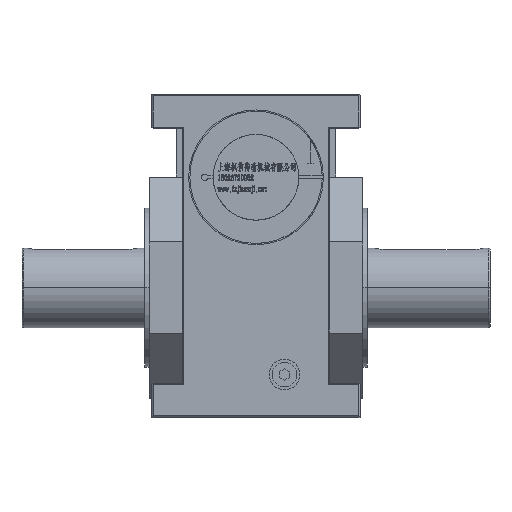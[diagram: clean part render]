
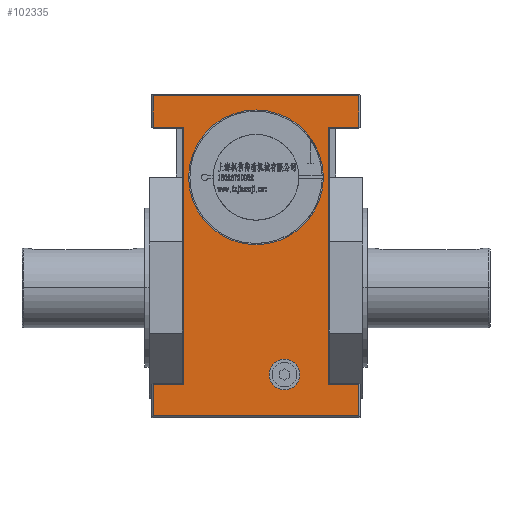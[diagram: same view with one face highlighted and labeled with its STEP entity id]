
A CAD part, top view. The second image highlights one B-rep face of the part: STEP entity #102335.
In plain terms, the highlighted planar face has unit normal (0, 0, 1).
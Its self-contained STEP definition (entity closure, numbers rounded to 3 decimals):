
#355 = CARTESIAN_POINT ( 'NONE',  ( 84., -104.5, 114. ) ) ;
#2718 = DIRECTION ( 'NONE',  ( 0., 1., 0. ) ) ;
#2901 = VECTOR ( 'NONE', #2718, 1000. ) ;
#4169 = VECTOR ( 'NONE', #63478, 1000. ) ;
#5095 = VERTEX_POINT ( 'NONE', #7476 ) ;
#5371 = DIRECTION ( 'NONE',  ( 0., -1., 0. ) ) ;
#6625 = EDGE_CURVE ( 'NONE', #98757, #60768, #103540, .T. ) ;
#7064 = VERTEX_POINT ( 'NONE', #83759 ) ;
#7476 = CARTESIAN_POINT ( 'NONE',  ( 59., -79., 114. ) ) ;
#7610 = CARTESIAN_POINT ( 'NONE',  ( 59., 131., 114. ) ) ;
#8239 = PLANE ( 'NONE',  #66728 ) ;
#8554 = CARTESIAN_POINT ( 'NONE',  ( 23.262, -71., 114. ) ) ;
#8654 = CARTESIAN_POINT ( 'NONE',  ( -84., -104.5, 114. ) ) ;
#8848 = VECTOR ( 'NONE', #36142, 1000. ) ;
#9473 = EDGE_CURVE ( 'NONE', #100819, #7064, #91770, .T. ) ;
#10500 = LINE ( 'NONE', #76514, #29490 ) ;
#10536 = CARTESIAN_POINT ( 'NONE',  ( 84., -79., 114. ) ) ;
#11999 = EDGE_CURVE ( 'NONE', #31250, #13885, #90948, .T. ) ;
#12397 = VERTEX_POINT ( 'NONE', #355 ) ;
#12643 = EDGE_CURVE ( 'NONE', #5095, #72929, #27075, .T. ) ;
#13885 = VERTEX_POINT ( 'NONE', #101556 ) ;
#15941 = ORIENTED_EDGE ( 'NONE', *, *, #57226, .F. ) ;
#16637 = VERTEX_POINT ( 'NONE', #8654 ) ;
#17352 = CARTESIAN_POINT ( 'NONE',  ( 84., -78., 114. ) ) ;
#18154 = VECTOR ( 'NONE', #5371, 1000. ) ;
#18891 = ORIENTED_EDGE ( 'NONE', *, *, #90923, .T. ) ;
#19803 = LINE ( 'NONE', #59881, #4169 ) ;
#20495 = LINE ( 'NONE', #86485, #54506 ) ;
#20740 = DIRECTION ( 'NONE',  ( 1., 0., 0. ) ) ;
#23628 = EDGE_CURVE ( 'NONE', #45109, #5095, #78839, .T. ) ;
#24780 = CARTESIAN_POINT ( 'NONE',  ( -84., 131., 114. ) ) ;
#27075 = LINE ( 'NONE', #83875, #2901 ) ;
#28557 = DIRECTION ( 'NONE',  ( 0., 1., 0. ) ) ;
#29462 = DIRECTION ( 'NONE',  ( 1., 0., 0. ) ) ;
#29490 = VECTOR ( 'NONE', #58712, 1000. ) ;
#30313 = CIRCLE ( 'NONE', #63149, 12.5 ) ;
#31250 = VERTEX_POINT ( 'NONE', #86034 ) ;
#31543 = DIRECTION ( 'NONE',  ( 0., 0., -1. ) ) ;
#31705 = DIRECTION ( 'NONE',  ( 0., 0., 1. ) ) ;
#31728 = CARTESIAN_POINT ( 'NONE',  ( 0., 90., 114. ) ) ;
#32399 = EDGE_CURVE ( 'NONE', #49230, #16637, #35675, .T. ) ;
#32885 = EDGE_CURVE ( 'NONE', #13885, #31250, #30313, .T. ) ;
#33809 = AXIS2_PLACEMENT_3D ( 'NONE', #77780, #102631, #28557 ) ;
#34874 = ORIENTED_EDGE ( 'NONE', *, *, #103806, .T. ) ;
#35675 = LINE ( 'NONE', #36206, #49249 ) ;
#36142 = DIRECTION ( 'NONE',  ( -1., 0., 0. ) ) ;
#36206 = CARTESIAN_POINT ( 'NONE',  ( -84., 158., 114. ) ) ;
#38180 = ORIENTED_EDGE ( 'NONE', *, *, #23628, .T. ) ;
#38693 = ORIENTED_EDGE ( 'NONE', *, *, #12643, .T. ) ;
#38908 = LINE ( 'NONE', #73511, #18154 ) ;
#39955 = AXIS2_PLACEMENT_3D ( 'NONE', #31728, #97694, #81476 ) ;
#40947 = CARTESIAN_POINT ( 'NONE',  ( 55., 90., 114. ) ) ;
#43659 = EDGE_LOOP ( 'NONE', ( #86348, #48849 ) ) ;
#45109 = VERTEX_POINT ( 'NONE', #10536 ) ;
#46547 = CARTESIAN_POINT ( 'NONE',  ( 85., 156.5, 114. ) ) ;
#46718 = VERTEX_POINT ( 'NONE', #104755 ) ;
#47093 = ORIENTED_EDGE ( 'NONE', *, *, #71396, .T. ) ;
#48849 = ORIENTED_EDGE ( 'NONE', *, *, #11999, .F. ) ;
#49230 = VERTEX_POINT ( 'NONE', #73138 ) ;
#49249 = VECTOR ( 'NONE', #69206, 1000. ) ;
#49830 = EDGE_CURVE ( 'NONE', #82043, #62964, #63578, .T. ) ;
#51780 = VECTOR ( 'NONE', #29462, 1000. ) ;
#54077 = DIRECTION ( 'NONE',  ( 0., 1., 0. ) ) ;
#54506 = VECTOR ( 'NONE', #104287, 1000. ) ;
#57186 = CARTESIAN_POINT ( 'NONE',  ( 84., 156.5, 114. ) ) ;
#57226 = EDGE_CURVE ( 'NONE', #7064, #100819, #70096, .T. ) ;
#57508 = CARTESIAN_POINT ( 'NONE',  ( 85., 158., 114. ) ) ;
#58712 = DIRECTION ( 'NONE',  ( 0., -1., 0. ) ) ;
#59881 = CARTESIAN_POINT ( 'NONE',  ( 85., 131., 114. ) ) ;
#60768 = VERTEX_POINT ( 'NONE', #61392 ) ;
#61392 = CARTESIAN_POINT ( 'NONE',  ( -59., 131., 114. ) ) ;
#61547 = CARTESIAN_POINT ( 'NONE',  ( -84., 156.5, 114. ) ) ;
#62964 = VERTEX_POINT ( 'NONE', #57186 ) ;
#63149 = AXIS2_PLACEMENT_3D ( 'NONE', #66321, #31705, #64710 ) ;
#63478 = DIRECTION ( 'NONE',  ( 1., 0., 0. ) ) ;
#63578 = LINE ( 'NONE', #106240, #100871 ) ;
#64419 = ORIENTED_EDGE ( 'NONE', *, *, #9473, .F. ) ;
#64710 = DIRECTION ( 'NONE',  ( 1., 0., 0. ) ) ;
#66226 = EDGE_LOOP ( 'NONE', ( #97550, #82168, #73698, #47093, #86757, #18891, #34874, #96309, #87854, #75179, #38180, #38693 ) ) ;
#66321 = CARTESIAN_POINT ( 'NONE',  ( 23.262, -71., 114. ) ) ;
#66728 = AXIS2_PLACEMENT_3D ( 'NONE', #57508, #31543, #91010 ) ;
#68777 = LINE ( 'NONE', #46547, #100644 ) ;
#69206 = DIRECTION ( 'NONE',  ( 0., -1., 0. ) ) ;
#70096 = CIRCLE ( 'NONE', #33809, 55. ) ;
#71143 = EDGE_CURVE ( 'NONE', #12397, #45109, #91467, .T. ) ;
#71396 = EDGE_CURVE ( 'NONE', #100576, #98757, #38908, .T. ) ;
#72929 = VERTEX_POINT ( 'NONE', #7610 ) ;
#73138 = CARTESIAN_POINT ( 'NONE',  ( -84., -79., 114. ) ) ;
#73511 = CARTESIAN_POINT ( 'NONE',  ( -84., 158., 114. ) ) ;
#73698 = ORIENTED_EDGE ( 'NONE', *, *, #89026, .T. ) ;
#74247 = FACE_BOUND ( 'NONE', #103382, .T. ) ;
#75179 = ORIENTED_EDGE ( 'NONE', *, *, #71143, .T. ) ;
#76379 = EDGE_CURVE ( 'NONE', #16637, #12397, #93239, .T. ) ;
#76514 = CARTESIAN_POINT ( 'NONE',  ( -59., -78., 114. ) ) ;
#77770 = CARTESIAN_POINT ( 'NONE',  ( 85., -79., 114. ) ) ;
#77780 = CARTESIAN_POINT ( 'NONE',  ( 0., 90., 114. ) ) ;
#78839 = LINE ( 'NONE', #77770, #8848 ) ;
#79530 = DIRECTION ( 'NONE',  ( -1., 0., 0. ) ) ;
#80230 = CARTESIAN_POINT ( 'NONE',  ( 84., 131., 114. ) ) ;
#81476 = DIRECTION ( 'NONE',  ( 0., 1., 0. ) ) ;
#81912 = DIRECTION ( 'NONE',  ( 0., 1., 0. ) ) ;
#82043 = VERTEX_POINT ( 'NONE', #80230 ) ;
#82168 = ORIENTED_EDGE ( 'NONE', *, *, #49830, .T. ) ;
#82347 = FACE_BOUND ( 'NONE', #43659, .T. ) ;
#83759 = CARTESIAN_POINT ( 'NONE',  ( -55., 90., 114. ) ) ;
#83875 = CARTESIAN_POINT ( 'NONE',  ( 59., 130., 114. ) ) ;
#85853 = VECTOR ( 'NONE', #20740, 1000. ) ;
#86034 = CARTESIAN_POINT ( 'NONE',  ( 10.762, -71., 114. ) ) ;
#86348 = ORIENTED_EDGE ( 'NONE', *, *, #32885, .F. ) ;
#86485 = CARTESIAN_POINT ( 'NONE',  ( -85., -79., 114. ) ) ;
#86757 = ORIENTED_EDGE ( 'NONE', *, *, #6625, .T. ) ;
#87177 = VECTOR ( 'NONE', #54077, 1000. ) ;
#87854 = ORIENTED_EDGE ( 'NONE', *, *, #76379, .T. ) ;
#89026 = EDGE_CURVE ( 'NONE', #62964, #100576, #68777, .T. ) ;
#89667 = EDGE_CURVE ( 'NONE', #72929, #82043, #19803, .T. ) ;
#90923 = EDGE_CURVE ( 'NONE', #60768, #46718, #10500, .T. ) ;
#90948 = CIRCLE ( 'NONE', #97872, 12.5 ) ;
#91010 = DIRECTION ( 'NONE',  ( -1., 0., 0. ) ) ;
#91328 = DIRECTION ( 'NONE',  ( 1., 0., 0. ) ) ;
#91467 = LINE ( 'NONE', #17352, #87177 ) ;
#91770 = CIRCLE ( 'NONE', #39955, 55. ) ;
#92711 = CARTESIAN_POINT ( 'NONE',  ( 85., -104.5, 114. ) ) ;
#93239 = LINE ( 'NONE', #92711, #85853 ) ;
#96309 = ORIENTED_EDGE ( 'NONE', *, *, #32399, .T. ) ;
#97550 = ORIENTED_EDGE ( 'NONE', *, *, #89667, .T. ) ;
#97694 = DIRECTION ( 'NONE',  ( 0., 0., 1. ) ) ;
#97872 = AXIS2_PLACEMENT_3D ( 'NONE', #8554, #106997, #91328 ) ;
#98757 = VERTEX_POINT ( 'NONE', #24780 ) ;
#100576 = VERTEX_POINT ( 'NONE', #61547 ) ;
#100644 = VECTOR ( 'NONE', #79530, 1000. ) ;
#100819 = VERTEX_POINT ( 'NONE', #40947 ) ;
#100871 = VECTOR ( 'NONE', #81912, 1000. ) ;
#101556 = CARTESIAN_POINT ( 'NONE',  ( 35.762, -71., 114. ) ) ;
#102335 = ADVANCED_FACE ( 'NONE', ( #82347, #74247, #106677 ), #8239, .F. ) ;
#102631 = DIRECTION ( 'NONE',  ( 0., 0., 1. ) ) ;
#103004 = CARTESIAN_POINT ( 'NONE',  ( -60., 131., 114. ) ) ;
#103382 = EDGE_LOOP ( 'NONE', ( #15941, #64419 ) ) ;
#103540 = LINE ( 'NONE', #103004, #51780 ) ;
#103806 = EDGE_CURVE ( 'NONE', #46718, #49230, #20495, .T. ) ;
#104287 = DIRECTION ( 'NONE',  ( -1., 0., 0. ) ) ;
#104755 = CARTESIAN_POINT ( 'NONE',  ( -59., -79., 114. ) ) ;
#106240 = CARTESIAN_POINT ( 'NONE',  ( 84., 156.5, 114. ) ) ;
#106677 = FACE_OUTER_BOUND ( 'NONE', #66226, .T. ) ;
#106997 = DIRECTION ( 'NONE',  ( 0., 0., 1. ) ) ;
